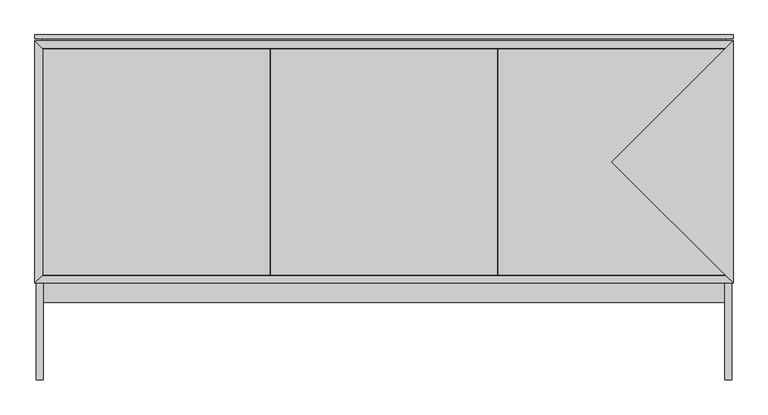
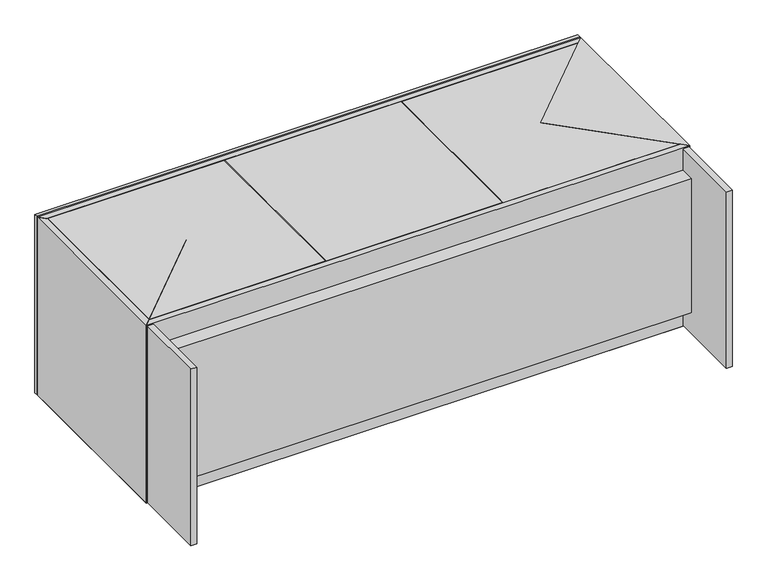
"""IFC4 building model written with IfcOpenShell, lengths in millimetres: proxy geometry, ELEVATE^CREDENZA 35h_25x72 3 DOOR-PARTS SOLID."""

from ifc_helpers import new_model, si_unit, frame, origin, origin_with_axes, place, context, project, spatial, polyline, outline, extrude, faceted_brep, source, transform, mapped, element, save


def generic_models_1e823878(model_context):
    return source(origin(), model_context, "Body", "SolidModel", [
        faceted_brep([(0.0, 0.0, 0.0), (19.05, 19.05, 19.05), (1809.75, 19.05, 19.05), (1828.8, 0.0, 0.0), (19.05, 19.05, 635.0), (1809.75, 19.05, 635.0), (0.0, 0.0, 635.0), (1828.8, 0.0, 635.0)], [[[0, 1, 2, 3]], [[2, 1, 4, 5]], [[1, 0, 6, 4]], [[3, 2, 5, 7]], [[0, 3, 7, 6]], [[6, 7, 5, 4]]]),
        extrude(outline(polyline([(622.3, 19.05), (603.25, 19.05), (603.25, 615.95), (622.3, 615.95), (622.3, 19.05)])), frame((0.0, 0.0, 19.05), z_axis=(0.0, 0.0, 1.0), x_axis=(1.0, 0.0, 0.0)), (0.0, 0.0, 1.0), 593.725),
        extrude(outline(polyline([(1828.8, 641.35), (0.0, 641.35), (0.0, 650.875), (1828.8, 650.875), (1828.8, 641.35)])), origin_with_axes(), (0.0, 0.0, 1.0), 635.0),
        faceted_brep([(1828.8, 635.0, 0.0), (1511.3, 317.5, 317.5), (1828.8, 0.0, 0.0), (0.0, 635.0, 0.0), (317.5, 317.5, 317.5), (0.0, 0.0, 0.0)], [[[0, 1, 2]], [[1, 0, 3, 4]], [[1, 4, 5, 2]], [[5, 3, 0, 2]], [[4, 3, 5]]]),
        extrude(outline(polyline([(21.43125, 613.56875), (615.15625, 613.56875), (615.15625, 21.43125), (21.43125, 21.43125), (21.43125, 613.56875)])), frame((0.0, 0.0, 615.95), z_axis=(0.0, 0.0, 1.0), x_axis=(1.0, 0.0, 0.0)), (0.0, 0.0, 1.0), 19.05),
        faceted_brep([(1806.575, -254.0, 3.175), (1806.575, -254.0, 631.825), (1806.575, 0.0, 631.825), (1806.575, 0.0, 555.625), (1806.575, -50.8, 555.625), (1806.575, -50.8, 79.375), (1806.575, 0.0, 79.375), (1806.575, 0.0, 3.175), (1825.625, -254.0, 631.825), (1825.625, -254.0, 3.175), (1825.625, 0.0, 3.175), (1825.625, 0.0, 631.825), (3.175, -254.0, 3.175), (3.175, -254.0, 631.825), (3.175, 0.0, 631.825), (3.175, 0.0, 3.175), (22.225, -254.0, 631.825), (22.225, -254.0, 3.175), (22.225, 0.0, 3.175), (22.225, 0.0, 79.375), (22.225, -50.8, 79.375), (22.225, -50.8, 555.625), (22.225, 0.0, 555.625), (22.225, 0.0, 631.825)], [[[0, 1, 2, 3, 4, 5, 6, 7]], [[8, 9, 10, 11]], [[7, 10, 9, 0]], [[11, 2, 1, 8]], [[12, 13, 14, 15]], [[16, 17, 18, 19, 20, 21, 22, 23]], [[23, 14, 13, 16]], [[4, 21, 20, 5]], [[1, 0, 9, 8]], [[15, 18, 17, 12]], [[13, 12, 17, 16]], [[22, 21, 4, 3]], [[22, 3, 2, 11, 10, 7, 6, 19, 18, 15, 14, 23]], [[20, 19, 6, 5]]]),
        faceted_brep([(1828.8, 635.0, 635.0), (1511.3, 317.5, 635.0), (1828.8, 0.0, 635.0), (1828.8, 635.0, 0.0), (1511.3, 317.5, 317.5), (1828.8, 0.0, 0.0)], [[[0, 1, 2]], [[1, 0, 3, 4]], [[4, 3, 5]], [[5, 3, 0, 2]], [[1, 4, 5, 2]]]),
        extrude(outline(polyline([(1809.75, 635.0), (19.05, 635.0), (19.05, 641.35), (1809.75, 641.35), (1809.75, 635.0)])), origin_with_axes(), (0.0, 0.0, 1.0), 615.95),
        faceted_brep([(1828.8, 635.0, 0.0), (1809.75, 615.95, 19.05), (19.05, 615.95, 19.05), (0.0, 635.0, 0.0), (19.05, 615.95, 635.0), (0.0, 635.0, 635.0), (1809.75, 615.95, 635.0), (1828.8, 635.0, 635.0)], [[[0, 1, 2, 3]], [[3, 2, 4, 5]], [[2, 1, 6, 4]], [[0, 3, 5, 7]], [[1, 0, 7, 6]], [[6, 7, 5, 4]]]),
        faceted_brep([(0.0, 0.0, 635.0), (317.5, 317.5, 635.0), (0.0, 635.0, 635.0), (0.0, 0.0, 0.0), (317.5, 317.5, 317.5), (0.0, 635.0, 0.0)], [[[0, 1, 2]], [[1, 0, 3, 4]], [[4, 3, 5]], [[1, 4, 5, 2]], [[5, 3, 0, 2]]]),
        extrude(outline(polyline([(617.5375, 21.43125), (617.5375, 613.56875), (1211.2625, 613.56875), (1211.2625, 21.43125), (617.5375, 21.43125)])), frame((0.0, 0.0, 615.95), z_axis=(0.0, 0.0, 1.0), x_axis=(1.0, 0.0, 0.0)), (0.0, 0.0, 1.0), 19.05),
        extrude(outline(polyline([(1213.64375, 613.56875), (1807.36875, 613.56875), (1807.36875, 21.43125), (1213.64375, 21.43125), (1213.64375, 613.56875)])), frame((0.0, 0.0, 615.95), z_axis=(0.0, 0.0, 1.0), x_axis=(1.0, 0.0, 0.0)), (0.0, 0.0, 1.0), 19.05),
        extrude(outline(polyline([(1225.55, 19.05), (1206.5, 19.05), (1206.5, 615.95), (1225.55, 615.95), (1225.55, 19.05)])), frame((0.0, 0.0, 19.05), z_axis=(0.0, 0.0, 1.0), x_axis=(1.0, 0.0, 0.0)), (0.0, 0.0, 1.0), 593.725),
    ])


if __name__ == "__main__":
    model = new_model("IFC4")
    model_context = context("Model", 3, world=origin())
    ifc_project = project(units=[si_unit("LENGTHUNIT", "METRE", prefix="MILLI")], contexts=[model_context])
    site = spatial("IfcSite", under=ifc_project)
    building = spatial("IfcBuilding", under=site)
    placement = place(None, origin())
    generic_models_shape = generic_models_1e823878(model_context)
    element("IfcBuildingElementProxy", 1, Name="ELEVATE^CREDENZA 35h_25x72 3 DOOR-PARTS SOLID", ObjectType="ELEVATE^CREDENZA 35h_25x72 3 DOOR-PARTS SOLID", at=placement, inside=building, context=model_context, shape_type="MappedRepresentation", body=[
        mapped(generic_models_shape, transform((0.0, 0.0, 0.0), x_axis=(1.0, 0.0, 0.0), y_axis=(0.0, 1.0, 0.0), z_axis=(0.0, 0.0, 1.0))),
    ])
    save(model, "model.ifc")
